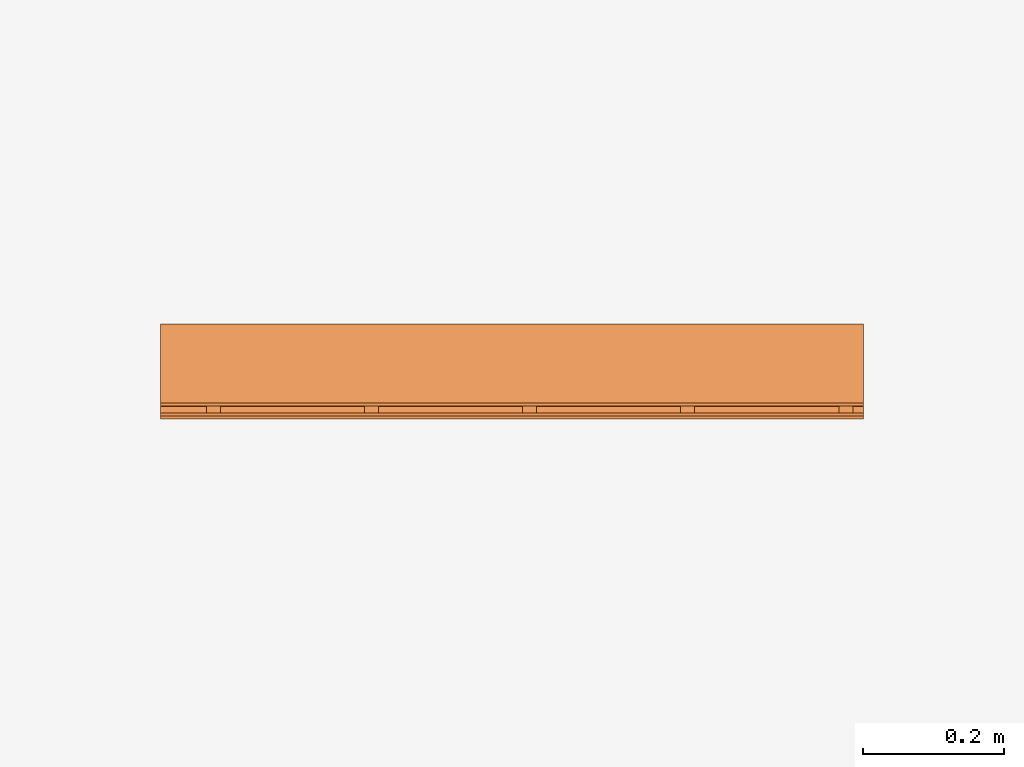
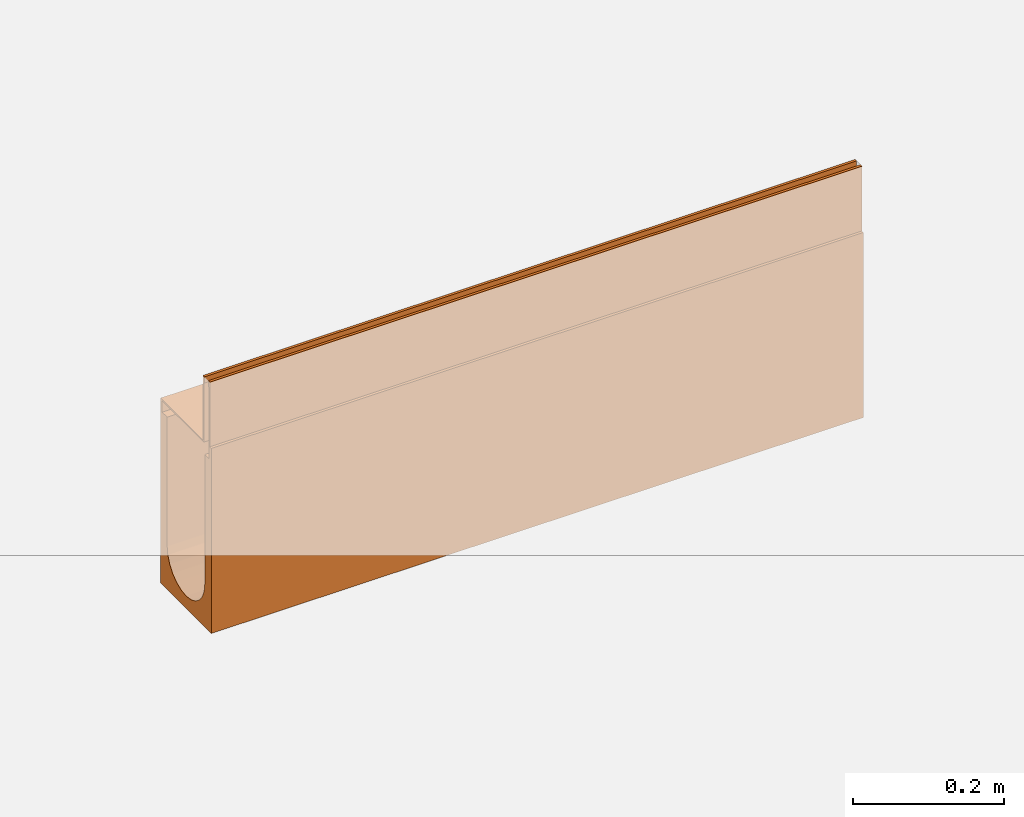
# One storey, part 2 of 2: 1 proxy.
"""IFC2X3 building model written with IfcOpenShell, lengths in millimetres."""

from ifc_helpers import new_model, entity, si_unit, converted_unit, direction, frame, origin, place, context, subcontext, project, spatial, faceted_brep, source, transform, mapped, material, material_list, element, save


model = new_model("IFC2X3")

# Units and contexts
model_context = context("Model", 3, precision=1e-06, world=origin(), true_north=direction((2.0, 6.12303176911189e-17, 1.0)))
context_of_model = context(None, 3, precision=1e-06, world=origin(), true_north=direction((2.0, 6.12303176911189e-17, 1.0)))
body_context = subcontext(model_context, "Body", "Model", "MODEL_VIEW")
ifc_project = project(units=[si_unit("LENGTHUNIT", "METRE", prefix="MILLI"), si_unit("AREAUNIT", "SQUARE_METRE", prefix="MILLI"), si_unit("VOLUMEUNIT", "CUBIC_METRE", prefix="MILLI"), converted_unit("PLANEANGLEUNIT", "DEGREE", entity("IfcRatioMeasure", 0.0174532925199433), si_unit("PLANEANGLEUNIT", "RADIAN"), dimensions=[0, 0, 0, 0, 0, 0, 0]), si_unit("TIMEUNIT", "SECOND")], contexts=[model_context, context_of_model])

# Site, building, storey
site_placement = place(None, origin())
site = spatial("IfcSite", under=ifc_project, at=site_placement, Name="Default", CompositionType="ELEMENT")
building_placement = place(site_placement, origin())
building = spatial("IfcBuilding", under=site, at=building_placement, CompositionType="ELEMENT")
storey_placement = place(building_placement, origin())
storey = spatial("IfcBuildingStorey", under=building, at=storey_placement, Name="Level 1", CompositionType="ELEMENT", Elevation=0.0)

# Proxy
ifc_material_1 = material(Name="Steel, Galvanized")
ifc_material_2 = material(Name="Vienite® Synthetic Resin Concrete")
ifc_material_list = material_list([ifc_material_1, ifc_material_2])
shared_shape = source(origin(), body_context, "Body", "Brep", [
    faceted_brep([(63.249999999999, 15.0, -107.0), (63.249999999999, 17.0, -109.0), (63.249999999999, 33.0, -109.0), (63.249999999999, 35.0, -107.0), (63.249999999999, 17.0, -123.499999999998), (63.249999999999, 15.0, -125.499999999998), (63.249999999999, 33.0, -123.499999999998), (63.249999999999, 35.0, -125.499999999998), (-61.250000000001, 15.0, -125.499999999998), (-61.250000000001, 17.0, -123.499999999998), (-61.250000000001, 33.0, -123.499999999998), (-61.250000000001, 35.0, -125.499999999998), (-61.250000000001, 17.0, -109.0), (-61.250000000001, 15.0, -107.0), (-61.250000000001, 33.0, -109.0), (-61.250000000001, 35.0, -107.0)], [[[0, 1, 2, 3]], [[4, 1, 0, 5]], [[3, 2, 6, 7]], [[6, 4, 5, 7]], [[8, 9, 10, 11]], [[12, 9, 8, 13]], [[11, 10, 14, 15]], [[14, 12, 13, 15]], [[5, 0, 13, 8]], [[7, 5, 8, 11]], [[3, 7, 11, 15]], [[0, 3, 15, 13]], [[1, 4, 9, 12]], [[14, 2, 1, 12]], [[6, 2, 14, 10]], [[9, 4, 6, 10]]]),
    faceted_brep([(-47.2500000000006, 0.0, -10.0), (-47.2500000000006, 0.0, -107.0), (-45.2500000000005, 0.0, -105.0), (-45.2500000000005, 0.0, 0.0), (-49.2500000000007, 0.0, 0.0), (-49.2500000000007, 0.0, -10.0), (63.2499999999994, 0.0, -107.0), (63.2499999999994, 0.0, -105.0), (-45.2500000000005, 1000.0, -105.0), (63.2499999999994, 1000.0, -105.0), (63.2499999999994, 1000.0, -107.0), (-47.2500000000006, 1000.0, -107.0), (-47.2500000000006, 1000.0, -10.0), (-45.2500000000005, 1000.0, 0.0), (-49.2500000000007, 1000.0, -10.0), (-49.2500000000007, 1000.0, 0.0)], [[[0, 1, 2, 3]], [[4, 5, 0, 3]], [[6, 7, 2, 1]], [[8, 9, 10, 11]], [[12, 13, 8, 11]], [[12, 14, 15, 13]], [[0, 5, 14, 12]], [[11, 1, 0, 12]], [[6, 1, 11, 10]], [[9, 7, 6, 10]], [[8, 2, 7, 9]], [[3, 2, 8, 13]], [[15, 4, 3, 13]], [[5, 4, 15, 14]]]),
    faceted_brep([(-59.2500000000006, 1000.0, 0.0), (-59.2500000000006, 1000.0, -10.0), (-61.2500000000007, 1000.0, -10.0), (-63.2500000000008, 1000.0, 0.0), (-63.2500000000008, 1000.0, -125.499999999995), (-61.2500000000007, 1000.0, -125.499999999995), (-61.2500000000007, 0.0, -10.0), (-63.2500000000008, 0.0, 0.0), (-63.2500000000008, 0.0, -125.499999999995), (-61.2500000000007, 0.0, -125.499999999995), (-59.2500000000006, 0.0, 0.0), (-59.2500000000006, 0.0, -10.0)], [[[0, 1, 2, 3]], [[4, 3, 2, 5]], [[6, 7, 8, 9]], [[10, 7, 6, 11]], [[9, 8, 4, 5]], [[6, 9, 5, 2]], [[11, 6, 2, 1]], [[10, 11, 1, 0]], [[3, 7, 10, 0]], [[4, 8, 7, 3]]]),
    faceted_brep([(63.2499999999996, 465.0, -107.0), (63.2499999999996, 467.0, -109.0), (63.2499999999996, 483.0, -109.0), (63.2499999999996, 485.0, -107.0), (63.2499999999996, 467.0, -123.499999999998), (63.2499999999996, 465.0, -125.499999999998), (63.2499999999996, 483.0, -123.499999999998), (63.2499999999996, 485.0, -125.499999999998), (-61.2500000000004, 465.0, -125.499999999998), (-61.2500000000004, 467.0, -123.499999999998), (-61.2500000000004, 483.0, -123.499999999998), (-61.2500000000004, 485.0, -125.499999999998), (-61.2500000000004, 467.0, -109.0), (-61.2500000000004, 465.0, -107.0), (-61.2500000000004, 483.0, -109.0), (-61.2500000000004, 485.0, -107.0)], [[[0, 1, 2, 3]], [[4, 1, 0, 5]], [[3, 2, 6, 7]], [[6, 4, 5, 7]], [[8, 9, 10, 11]], [[12, 9, 8, 13]], [[11, 10, 14, 15]], [[14, 12, 13, 15]], [[5, 0, 13, 8]], [[7, 5, 8, 11]], [[3, 7, 11, 15]], [[0, 3, 15, 13]], [[1, 4, 9, 12]], [[2, 1, 12, 14]], [[6, 2, 14, 10]], [[4, 6, 10, 9]]]),
    faceted_brep([(63.2499999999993, 240.0, -107.0), (63.2499999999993, 242.0, -109.0), (63.2499999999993, 258.0, -109.0), (63.2499999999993, 260.0, -107.0), (63.2499999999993, 242.0, -123.499999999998), (63.2499999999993, 240.0, -125.499999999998), (63.2499999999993, 258.0, -123.499999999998), (63.2499999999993, 260.0, -125.499999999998), (-61.2500000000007, 240.0, -125.499999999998), (-61.2500000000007, 242.0, -123.499999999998), (-61.2500000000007, 258.0, -123.499999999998), (-61.2500000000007, 260.0, -125.499999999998), (-61.2500000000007, 242.0, -109.0), (-61.2500000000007, 240.0, -107.0), (-61.2500000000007, 258.0, -109.0), (-61.2500000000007, 260.0, -107.0)], [[[0, 1, 2, 3]], [[4, 1, 0, 5]], [[3, 2, 6, 7]], [[6, 4, 5, 7]], [[8, 9, 10, 11]], [[12, 9, 8, 13]], [[11, 10, 14, 15]], [[14, 12, 13, 15]], [[5, 0, 13, 8]], [[7, 5, 8, 11]], [[3, 7, 11, 15]], [[0, 3, 15, 13]], [[1, 4, 9, 12]], [[2, 1, 12, 14]], [[6, 2, 14, 10]], [[4, 6, 10, 9]]]),
    faceted_brep([(63.2500000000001, 915.0, -107.0), (63.2500000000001, 917.0, -109.0), (63.2500000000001, 933.0, -109.0), (63.2500000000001, 935.0, -107.0), (63.2500000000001, 917.0, -123.499999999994), (63.2500000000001, 915.0, -125.499999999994), (63.2500000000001, 933.0, -123.499999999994), (63.2500000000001, 935.0, -125.499999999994), (-61.2499999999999, 915.0, -125.499999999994), (-61.2499999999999, 917.0, -123.499999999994), (-61.2499999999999, 933.0, -123.499999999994), (-61.2499999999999, 935.0, -125.499999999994), (-61.2499999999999, 917.0, -109.0), (-61.2499999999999, 915.0, -107.0), (-61.2499999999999, 933.0, -109.0), (-61.2499999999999, 935.0, -107.0)], [[[0, 1, 2, 3]], [[4, 1, 0, 5]], [[3, 2, 6, 7]], [[6, 4, 5, 7]], [[8, 9, 10, 11]], [[12, 9, 8, 13]], [[11, 10, 14, 15]], [[14, 12, 13, 15]], [[5, 0, 13, 8]], [[11, 7, 5, 8]], [[3, 7, 11, 15]], [[13, 0, 3, 15]], [[1, 4, 9, 12]], [[2, 1, 12, 14]], [[6, 2, 14, 10]], [[4, 6, 10, 9]]]),
    faceted_brep([(63.2499999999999, 690.0, -107.0), (63.2499999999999, 692.0, -109.0), (63.2499999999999, 708.0, -109.0), (63.2499999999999, 710.0, -107.0), (63.2499999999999, 692.0, -123.499999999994), (63.2499999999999, 690.0, -125.499999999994), (63.2499999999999, 708.0, -123.499999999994), (63.2499999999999, 710.0, -125.499999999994), (-61.2500000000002, 690.0, -125.499999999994), (-61.2500000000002, 692.0, -123.499999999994), (-61.2500000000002, 708.0, -123.499999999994), (-61.2500000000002, 710.0, -125.499999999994), (-61.2500000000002, 692.0, -109.0), (-61.2500000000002, 690.0, -107.0), (-61.2500000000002, 708.0, -109.0), (-61.2500000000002, 710.0, -107.0)], [[[0, 1, 2, 3]], [[4, 1, 0, 5]], [[3, 2, 6, 7]], [[6, 4, 5, 7]], [[8, 9, 10, 11]], [[12, 9, 8, 13]], [[11, 10, 14, 15]], [[14, 12, 13, 15]], [[5, 0, 13, 8]], [[11, 7, 5, 8]], [[3, 7, 11, 15]], [[13, 0, 3, 15]], [[1, 4, 9, 12]], [[2, 1, 12, 14]], [[6, 2, 14, 10]], [[4, 6, 10, 9]]]),
    faceted_brep([(63.2499999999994, 1000.0, -125.500000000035), (63.2499999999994, 1000.0, -105.0), (67.5000000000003, 1000.0, -105.0), (67.5000000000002, 1000.0, -405.0), (50.0, 1000.0, -335.0), (50.0, 1000.0, -125.500000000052), (-67.4999999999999, 1000.0, -105.0), (-63.2499999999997, 1000.0, -105.0), (-63.2500000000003, 1000.0, -125.500000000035), (-67.4999999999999, 1000.0, -405.0), (-50.0, 1000.0, -125.500000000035), (-50.0, 1000.0, -335.0), (48.2962913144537, 1000.0, -347.940952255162), (35.3553390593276, 1000.0, -370.355339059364), (43.3012701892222, 1000.0, -360.0), (25.0, 1000.0, -378.301270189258), (0.0, 1000.0, -385.0), (12.9409522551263, 1000.0, -383.29629131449), (-43.3012701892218, 1000.0, -360.0), (-35.3553390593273, 1000.0, -370.355339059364), (-48.2962913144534, 1000.0, -347.940952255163), (-25.0, 1000.0, -378.301270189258), (-12.9409522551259, 1000.0, -383.29629131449), (67.5000000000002, 0.0, -405.0), (12.9409522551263, 0.0, -383.29629131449), (0.0, 0.0, -385.0), (25.0, 0.0, -378.301270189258), (35.3553390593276, 0.0, -370.355339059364), (43.3012701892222, 0.0, -360.0), (48.2962913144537, 0.0, -347.940952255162), (-12.9409522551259, 0.0, -383.29629131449), (-67.4999999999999, 0.0, -405.0), (-25.0, 0.0, -378.301270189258), (-35.3553390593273, 0.0, -370.355339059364), (-43.3012701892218, 0.0, -360.0), (-48.2962913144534, 0.0, -347.940952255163), (50.0, 0.0, -335.0), (63.2499999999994, 0.0, -125.500000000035), (50.0, 0.0, -125.500000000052), (67.5000000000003, 0.0, -105.0), (63.2499999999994, 0.0, -105.0), (-50.0, 0.0, -335.0), (-50.0, 0.0, -125.500000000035), (-63.2500000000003, 0.0, -125.500000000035), (-63.2499999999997, 0.0, -105.0), (-67.4999999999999, 0.0, -105.0), (-14.2350474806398, 46.8740795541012, -405.0), (0.0, 45.0, -405.0), (-27.5000000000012, 52.3686027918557, -405.0), (-53.1259204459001, 85.764952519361, -405.0), (-47.6313972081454, 72.4999999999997, -405.0), (-38.8908729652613, 61.1091270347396, -405.0), (-55.0, 100.0, -405.0), (14.2350474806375, 46.8740795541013, -405.0), (27.4999999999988, 52.368602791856, -405.0), (38.8908729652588, 61.1091270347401, -405.0), (47.6313972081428, 72.5000000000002, -405.0), (53.1259204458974, 85.7649525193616, -405.0), (55.0, 100.0, -405.0), (-53.1259204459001, 114.235047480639, -405.0), (-47.6313972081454, 127.5, -405.0), (-38.8908729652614, 138.89087296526, -405.0), (-27.5000000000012, 147.631397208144, -405.0), (-14.2350474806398, 153.125920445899, -405.0), (0.0, 155.0, -405.0), (47.6313972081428, 127.5, -405.0), (38.8908729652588, 138.89087296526, -405.0), (53.1259204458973, 114.235047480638, -405.0), (14.2350474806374, 153.125920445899, -405.0), (27.4999999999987, 147.631397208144, -405.0), (50.0, 500.0, -335.0), (39.6676669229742, 358.503173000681, -365.438071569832), (46.1939765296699, 499.999994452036, -354.134171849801), (49.0392639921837, 322.335444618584, -344.754516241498), (30.4380713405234, 499.999998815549, -374.667667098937), (19.1341715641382, 292.558308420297, -381.193976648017), (6.52630960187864, 500.0, -384.572243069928), (19.1341716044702, 641.496826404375, -381.193976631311), (49.0392639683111, 640.187466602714, -344.754516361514), (-19.1341716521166, 500.0, -381.193976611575), (39.667666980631, 707.441691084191, -365.438071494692), (-46.1939766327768, 500.0, -354.134171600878), (-49.0392640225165, 677.66454995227, -344.754516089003), (-30.4380714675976, 358.503175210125, -374.66766700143), (-6.52630964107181, 292.558307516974, -384.572243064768), (-6.52630961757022, 641.49682443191, -384.572243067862), (-39.6676670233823, 292.558307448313, -365.438071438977), (-39.6676670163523, 641.496824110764, -365.438071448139), (-30.4380714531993, 707.44169219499, -374.667667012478), (-49.0392640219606, 359.812525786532, -344.754516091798), (-50.0, 500.002341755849, -335.0), (-27.5000000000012, 147.631397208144, -395.0), (-14.2350474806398, 153.125920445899, -395.0), (0.0, 155.0, -395.0), (14.2350474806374, 153.125920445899, -395.0), (-38.8908729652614, 138.89087296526, -395.0), (-47.6313972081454, 127.5, -395.0), (-55.0, 100.0, -395.0), (-53.1259204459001, 114.235047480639, -395.0), (47.6313972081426, 72.4999999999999, -395.0), (27.4999999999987, 147.631397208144, -395.0), (53.1259204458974, 114.235047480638, -395.0), (55.0, 100.0, -395.0), (47.6313972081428, 127.5, -395.0), (38.8908729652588, 138.89087296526, -395.0), (-47.6313972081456, 72.5, -395.0), (-27.5000000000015, 52.3686027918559, -395.0), (-38.8908729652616, 61.1091270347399, -395.0), (0.0, 45.0, -395.0), (-14.2350474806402, 46.8740795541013, -395.0), (38.8908729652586, 61.1091270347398, -395.0), (53.1259204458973, 85.7649525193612, -395.0), (27.4999999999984, 52.3686027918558, -395.0), (14.2350474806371, 46.8740795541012, -395.0), (-53.1259204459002, 85.7649525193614, -395.0)], [[[0, 1, 2, 3]], [[4, 5, 0, 3]], [[6, 7, 8, 9]], [[8, 10, 11, 9]], [[4, 3, 12]], [[13, 14, 3]], [[15, 13, 3]], [[16, 17, 3, 9]], [[3, 17, 15]], [[14, 12, 3]], [[18, 19, 9]], [[20, 18, 9]], [[21, 22, 9]], [[9, 22, 16]], [[21, 9, 19]], [[20, 9, 11]], [[23, 24, 25]], [[24, 23, 26]], [[27, 26, 23]], [[28, 27, 23]], [[23, 29, 28]], [[25, 30, 31, 23]], [[31, 30, 32]], [[33, 34, 31]], [[32, 33, 31]], [[31, 34, 35]], [[36, 29, 23]], [[37, 38, 36, 23]], [[39, 40, 37, 23]], [[41, 42, 43, 31]], [[35, 41, 31]], [[43, 44, 45, 31]], [[7, 44, 43, 8]], [[6, 45, 44, 7]], [[31, 45, 6, 9]], [[31, 46, 47, 23]], [[46, 31, 48]], [[49, 50, 31]], [[51, 48, 31]], [[50, 51, 31]], [[31, 52, 49]], [[23, 53, 54]], [[53, 23, 47]], [[23, 54, 55]], [[55, 56, 23]], [[57, 58, 23]], [[56, 57, 23]], [[23, 58, 3]], [[9, 59, 52, 31]], [[60, 59, 9]], [[61, 9, 62]], [[9, 61, 60]], [[63, 62, 9]], [[64, 63, 9, 3]], [[65, 66, 3]], [[67, 65, 3]], [[68, 64, 3]], [[69, 3, 66]], [[3, 69, 68]], [[67, 3, 58]], [[2, 39, 23, 3]], [[1, 40, 39, 2]], [[37, 40, 1, 0]], [[5, 38, 37, 0]], [[4, 70, 38, 5]], [[71, 27, 28]], [[14, 72, 12]], [[28, 29, 72]], [[72, 29, 73]], [[26, 27, 74]], [[15, 74, 13]], [[24, 75, 76]], [[72, 71, 28]], [[77, 75, 74]], [[24, 26, 75]], [[75, 77, 76]], [[70, 4, 78, 73]], [[73, 29, 36]], [[24, 76, 25]], [[21, 79, 22]], [[80, 71, 72]], [[20, 81, 18]], [[14, 13, 80]], [[15, 77, 74]], [[20, 11, 82]], [[17, 16, 76]], [[83, 33, 32]], [[84, 85, 79]], [[15, 17, 77]], [[32, 30, 79]], [[86, 33, 83]], [[19, 87, 88]], [[83, 32, 79]], [[35, 34, 81]], [[19, 88, 21]], [[86, 34, 33]], [[87, 81, 86]], [[89, 82, 90, 41]], [[30, 25, 84]], [[22, 85, 16]], [[13, 74, 80]], [[85, 76, 16]], [[26, 74, 75]], [[88, 83, 79]], [[25, 76, 84]], [[18, 81, 87]], [[87, 19, 18]], [[77, 17, 76]], [[20, 82, 81]], [[85, 22, 79]], [[14, 80, 72]], [[71, 80, 74]], [[71, 74, 27]], [[30, 84, 79]], [[85, 84, 76]], [[21, 88, 79]], [[83, 88, 87, 86]], [[34, 86, 81]], [[72, 73, 78]], [[70, 73, 36]], [[78, 12, 72]], [[12, 78, 4]], [[81, 82, 89]], [[90, 82, 11]], [[89, 35, 81]], [[35, 89, 41]], [[10, 42, 41, 90]], [[43, 42, 10, 8]], [[91, 92, 93, 94]], [[95, 91, 94, 96]], [[97, 98, 96, 99]], [[99, 96, 94, 100]], [[101, 102, 100, 103]], [[104, 103, 100]], [[105, 97, 99, 106]], [[107, 105, 106]], [[108, 109, 106, 110]], [[102, 111, 99, 100]], [[108, 110, 112, 113]], [[106, 99, 110]], [[114, 97, 105]], [[101, 67, 58, 102]], [[103, 65, 67, 101]], [[100, 69, 66, 104]], [[104, 66, 65, 103]], [[94, 68, 69, 100]], [[68, 94, 93, 64]], [[92, 63, 64, 93]], [[91, 62, 63, 92]], [[96, 60, 61, 95]], [[95, 61, 62, 91]], [[98, 59, 60, 96]], [[59, 98, 97, 52]], [[114, 49, 52, 97]], [[105, 50, 49, 114]], [[106, 48, 51, 107]], [[107, 51, 50, 105]], [[109, 46, 48, 106]], [[46, 109, 108, 47]], [[113, 53, 47, 108]], [[112, 54, 53, 113]], [[99, 56, 55, 110]], [[110, 55, 54, 112]], [[111, 57, 56, 99]], [[57, 111, 102, 58]], [[38, 70, 36]], [[10, 90, 11]]]),
])
proxy_placement = place(storey_placement, frame((143.656586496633, 99.9218925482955, 0.0), z_axis=(0.0, 0.0, 1.0), x_axis=(0.0, 1.0, 0.0)))
element("IfcBuildingElementProxy", 1, at=proxy_placement, inside=storey, material=ifc_material_list, Name="Civil-Drainage-Channel-ACO-MultiDrain-M100D-Brickslot-Channel-System:23300 - No 30.0 Constant Depth Channel - 1000mm LG - Invert Depth 280mm:23300 - No 30.0 Constant Depth Channel - 1000mm LG - Invert Depth 280mm", ObjectType="23300 - No 30.0 Constant Depth Channel - 1000mm LG - Invert Depth 280mm", CompositionType="ELEMENT", context=body_context, shape_type="MappedRepresentation", body=[
    mapped(shared_shape, transform((0.0, 0.0, 0.0), scale=1.0)),
])

save(model, "model.ifc")
